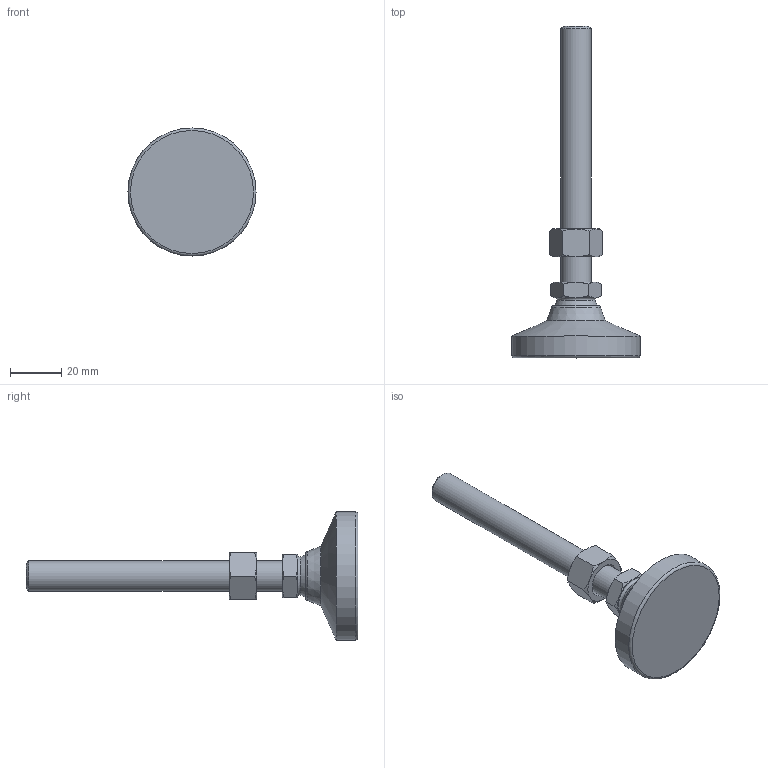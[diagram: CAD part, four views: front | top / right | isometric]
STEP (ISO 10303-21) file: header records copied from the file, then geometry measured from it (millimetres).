
FILE_DESCRIPTION( ( 'STEP AP214' ), ' ' );
FILE_NAME( 'O:/ganter_2015/teil_2/2_5/gn343_2/gn343_2_kr/Levelling foot with threaded stud GN 343.2-50-M12-100-KR-(0).stp', '2015-10-26T09:13:55', ( '' ), ( '' ), ' ', 'PARTsolutions', ' ' );
FILE_SCHEMA( ( 'AUTOMOTIVE_DESIGN { 1 0 10303 214 1 1 1 1 }' ) );
Length unit declared in the file: millimetre
Products named in the file (4): Levelling foot with threaded stud GN 343.2-50-M12-100-KR-(0); _Levelling foot with threaded stud GN 343.2-50-M12-100-KR-(0)_foot; _Levelling foot with threaded stud GN 343.2-50-M12-100-KR-(0)_screw; _Levelling foot with threaded stud GN 343.2-50-M12-100-KR-(0)_nut
Assembly tree (3 placements, depth 2):
  Levelling foot with threaded stud GN 343.2-50-M12-100-KR-(0)
    _Levelling foot with threaded stud GN 343.2-50-M12-100-KR-(0)_foot
    _Levelling foot with threaded stud GN 343.2-50-M12-100-KR-(0)_screw
    _Levelling foot with threaded stud GN 343.2-50-M12-100-KR-(0)_nut
Bounding box: 50 x 129.5 x 50 mm (x, y, z)
Volume: 40707.7 mm3; surface area: 12534.9 mm2
Topology: 3 solids, 3 shells, 56 faces, 117 edges, 68 vertices
Faces by surface type: cone 29, plane 19, torus 3, cylinder 3, sphere 2
Full cylindrical faces by diameter (mm): 10.106 x1, 12 x1, 50 x1
Entity records: 2066 total; most frequent: CARTESIAN_POINT 498, DIRECTION 212, ORIENTED_EDGE 200, AXIS2_PLACEMENT_3D 100, EDGE_CURVE 100, EDGE_LOOP 72, VERTEX_POINT 66, FACE_OUTER_BOUND 62
